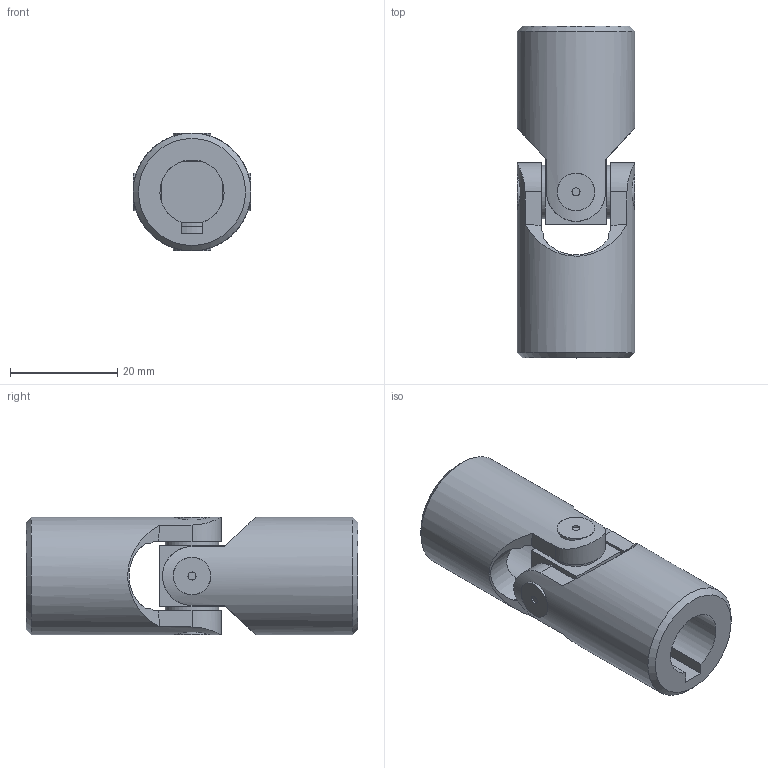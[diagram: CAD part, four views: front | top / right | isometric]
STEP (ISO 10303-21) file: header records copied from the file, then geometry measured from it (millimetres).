
FILE_DESCRIPTION(/* description */ ('EXTENSIBLE TRANSIMISSIONS Series G DIN 808 -2-'),/* implementation_level */ '2;1');
FILE_NAME(/* name */ '\\SRV2016\Societa\Stefano\Disegni 3D\Dis. Clienti\0000Catalogo 3D\01Singoli G-GB\Ø22_!04GB-1C_SGBS121C.stp',/* time_stamp */ '2021-11-10T15:04:44+01:00',/* author */ ('acquisti'),/* organization */ ('MARIOFERRI'),/* preprocessor_version */ 'ST-DEVELOPER v15.6',/* originating_system */ 'Autodesk Inventor 2015',/* authorisation */ '');
FILE_SCHEMA (('AUTOMOTIVE_DESIGN { 1 0 10303 214 3 1 1 }'));
Length unit declared in the file: millimetre
Products named in the file (4): 03G SFE; 04GB MOS; 04GB MOC; Assieme5
Assembly tree (3 placements, depth 2):
  Assieme5
    03G SFE
    04GB MOS
    04GB MOC
Bounding box: 22 x 62 x 22 mm (x, y, z)
Volume: 15317.9 mm3; surface area: 8001.1 mm2
Topology: 3 solids, 3 shells, 77 faces, 178 edges, 115 vertices
Faces by surface type: plane 39, cylinder 24, cone 10, torus 4
Full cylindrical faces by diameter (mm): 1.5 x4, 10 x4, 12 x1, 22 x2
Entity records: 2571 total; most frequent: CARTESIAN_POINT 876, DIRECTION 331, ORIENTED_EDGE 322, EDGE_CURVE 161, AXIS2_PLACEMENT_3D 144, VERTEX_POINT 113, EDGE_LOOP 104, FACE_OUTER_BOUND 77
